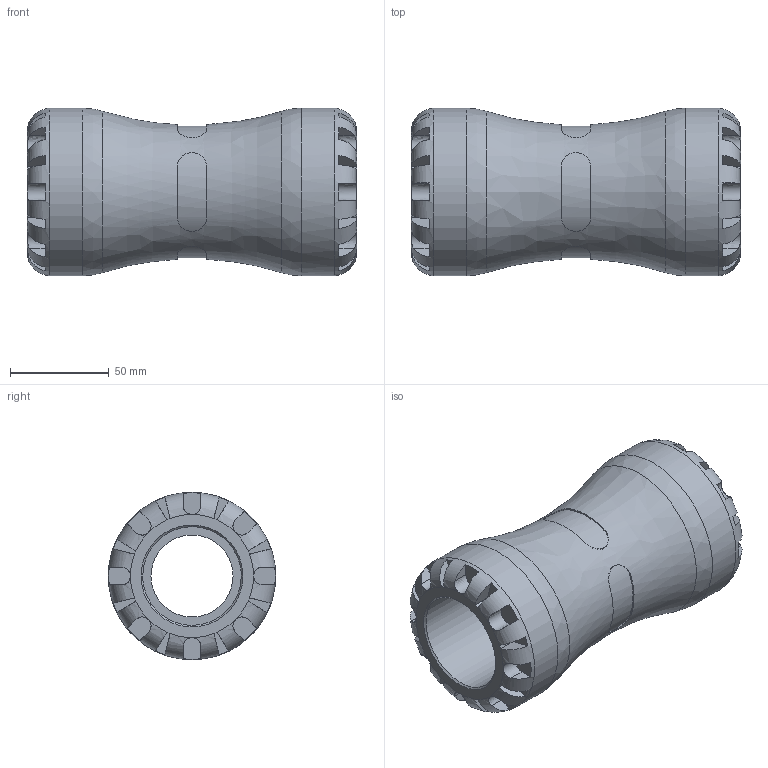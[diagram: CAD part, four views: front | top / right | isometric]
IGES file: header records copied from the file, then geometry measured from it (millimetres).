
Global section: file name: 150100050; native system: Autodesk Inventor 2019; preprocessor: unknown; author: KIM; date: 20231017.191323; units: millimetre
Bounding box: 167 x 85 x 84.99 mm (x, y, z)
Volume: 452087.2 mm3; surface area: 78387 mm2
Topology: 1 solids, 1 shells, 164 faces, 431 edges, 274 vertices
Faces by surface type: bspline 164
